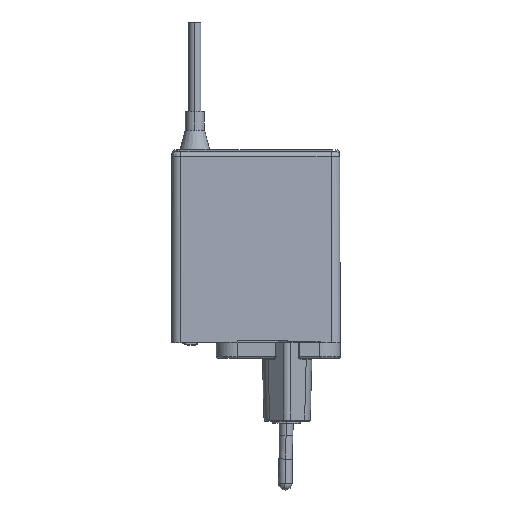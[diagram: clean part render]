
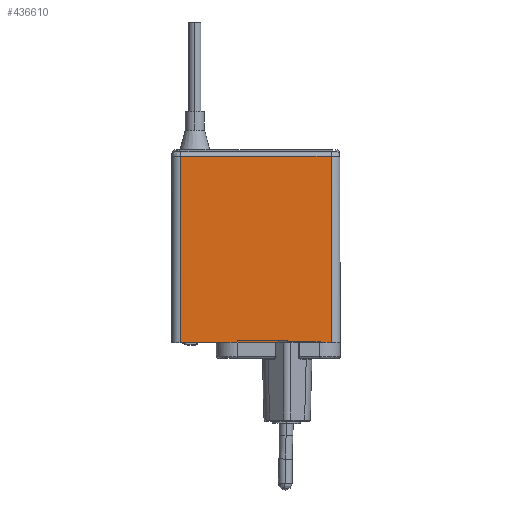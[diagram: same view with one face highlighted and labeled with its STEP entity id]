
A CAD part, top view. The second image highlights one B-rep face of the part: STEP entity #436610.
In plain terms, the highlighted planar face has unit normal (0, 0.002, 1) as drawn and (-1, 0, -0.002) by its records, which use the part's own axes.
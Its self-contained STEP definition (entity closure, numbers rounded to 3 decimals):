
#433020=CARTESIAN_POINT('',(-40.171,11.392,
0.));
#433030=VERTEX_POINT('',#433020);
#433060=CARTESIAN_POINT('',(-40.171,11.392,
0.));
#433070=DIRECTION('',(0.,1.,0.));
#433080=VECTOR('',#433070,1.);
#433090=LINE('',#433060,#433080);
#433100=CARTESIAN_POINT('',(-40.171,54.608,
0.));
#433110=VERTEX_POINT('',#433100);
#433120=EDGE_CURVE('',#433030,#433110,#433090,.T.);
#436250=CARTESIAN_POINT('',(-40.077,11.486,
-53.331));
#436260=VERTEX_POINT('',#436250);
#436290=CARTESIAN_POINT('',(-40.077,11.486,
-53.331));
#436300=DIRECTION('',(-0.002,-0.002,
1.));
#436310=VECTOR('',#436300,1.);
#436320=LINE('',#436290,#436310);
#436330=EDGE_CURVE('',#436260,#433030,#436320,.T.);
#436380=CARTESIAN_POINT('',(-40.171,33.,
0.));
#436390=DIRECTION('',(-1.,0.,
-0.002));
#436400=DIRECTION('',(-0.002,0.,1.));
#436410=AXIS2_PLACEMENT_3D('',#436380,#436390,#436400);
#436420=PLANE('',#436410);
#436430=ORIENTED_EDGE('',*,*,#433120,.T.);
#436440=ORIENTED_EDGE('',*,*,#436330,.T.);
#436450=CARTESIAN_POINT('',(-40.077,11.486,
-53.331));
#436460=DIRECTION('',(0.,1.,0.));
#436470=VECTOR('',#436460,1.);
#436480=LINE('',#436450,#436470);
#436490=CARTESIAN_POINT('',(-40.077,54.514,
-53.331));
#436500=VERTEX_POINT('',#436490);
#436510=EDGE_CURVE('',#436260,#436500,#436480,.T.);
#436520=ORIENTED_EDGE('',*,*,#436510,.F.);
#436530=CARTESIAN_POINT('',(-40.171,54.608,
0.));
#436540=DIRECTION('',(0.002,-0.002,
-1.));
#436550=VECTOR('',#436540,1.);
#436560=LINE('',#436530,#436550);
#436570=EDGE_CURVE('',#433110,#436500,#436560,.T.);
#436580=ORIENTED_EDGE('',*,*,#436570,.T.);
#436590=EDGE_LOOP('',(#436580,#436520,#436440,#436430));
#436600=FACE_OUTER_BOUND('',#436590,.T.);
#436610=ADVANCED_FACE('',(#436600),#436420,.T.);
